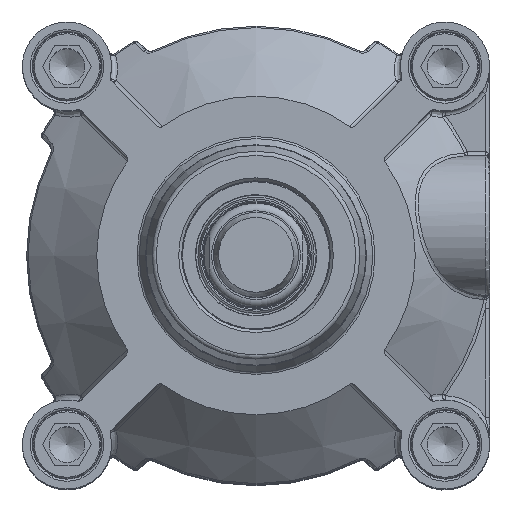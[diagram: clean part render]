
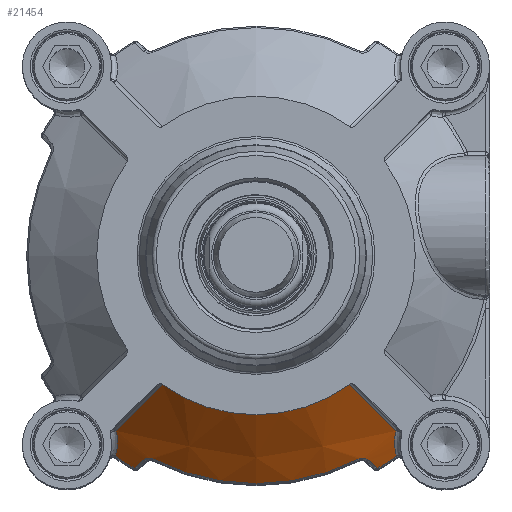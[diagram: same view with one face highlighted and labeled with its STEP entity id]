
A CAD part, top view. The second image highlights one B-rep face of the part: STEP entity #21454.
In plain terms, the highlighted conical face has half-angle 47.936 degrees and reference radius 47.75 mm.
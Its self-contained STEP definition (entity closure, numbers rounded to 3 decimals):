
#582=B_SPLINE_CURVE_WITH_KNOTS('',3,(#40540,#40541,#40542,#40543),
 .UNSPECIFIED.,.F.,.F.,(4,4),(-2.488,-0.418),
 .UNSPECIFIED.);
#586=B_SPLINE_CURVE_WITH_KNOTS('',3,(#40622,#40623,#40624,#40625,#40626),
 .UNSPECIFIED.,.F.,.F.,(4,1,4),(-8.955,-8.635,-8.209),
 .UNSPECIFIED.);
#588=B_SPLINE_CURVE_WITH_KNOTS('',3,(#40674,#40675,#40676,#40677,#40678,
#40679),.UNSPECIFIED.,.F.,.F.,(4,1,1,4),(-0.268,-0.153,
-0.077,0.),.UNSPECIFIED.);
#591=B_SPLINE_CURVE_WITH_KNOTS('',3,(#40739,#40740,#40741,#40742,#40743,
#40744),.UNSPECIFIED.,.F.,.F.,(4,1,1,4),(-0.268,-0.191,
-0.115,0.),.UNSPECIFIED.);
#592=B_SPLINE_CURVE_WITH_KNOTS('',3,(#40776,#40777,#40778,#40779),
 .UNSPECIFIED.,.F.,.F.,(4,4),(-1.565,-1.186),
 .UNSPECIFIED.);
#596=B_SPLINE_CURVE_WITH_KNOTS('',3,(#40856,#40857,#40858,#40859,#40860,
#40861,#40862,#40863),.UNSPECIFIED.,.F.,.F.,(4,2,2,4),(-8.752,
-8.48,-8.178,-8.005),.UNSPECIFIED.);
#599=B_SPLINE_CURVE_WITH_KNOTS('',3,(#40892,#40893,#40894,#40895),
 .UNSPECIFIED.,.F.,.F.,(4,4),(-2.108,-0.039),
 .UNSPECIFIED.);
#600=B_SPLINE_CURVE_WITH_KNOTS('',3,(#40931,#40932,#40933,#40934),
 .UNSPECIFIED.,.F.,.F.,(4,4),(-3.15,-2.771),
 .UNSPECIFIED.);
#5321=FACE_OUTER_BOUND('',#6923,.T.);
#6923=EDGE_LOOP('',(#17154,#17155,#17156,#17157,#17158,#17159,#17160,#17161,
#17162,#17163,#17164,#17165));
#8158=CIRCLE('',#23468,37.5);
#8180=CIRCLE('',#23500,57.67);
#8186=CIRCLE('',#23507,53.67);
#8193=CIRCLE('',#23516,57.67);
#9811=VERTEX_POINT('',#40407);
#9812=VERTEX_POINT('',#40420);
#9833=VERTEX_POINT('',#40512);
#9836=VERTEX_POINT('',#40573);
#9843=VERTEX_POINT('',#40636);
#9844=VERTEX_POINT('',#40672);
#9845=VERTEX_POINT('',#40673);
#9850=VERTEX_POINT('',#40736);
#9851=VERTEX_POINT('',#40738);
#9854=VERTEX_POINT('',#40753);
#9857=VERTEX_POINT('',#40811);
#9861=VERTEX_POINT('',#40829);
#12337=EDGE_CURVE('',#9811,#9812,#8158,.T.);
#12363=EDGE_CURVE('',#9812,#9833,#582,.T.);
#12372=EDGE_CURVE('',#9833,#9836,#586,.T.);
#12377=EDGE_CURVE('',#9836,#9843,#8180,.T.);
#12379=EDGE_CURVE('',#9844,#9845,#588,.T.);
#12385=EDGE_CURVE('',#9850,#9851,#591,.T.);
#12387=EDGE_CURVE('',#9845,#9850,#8186,.T.);
#12392=EDGE_CURVE('',#9851,#9854,#592,.T.);
#12398=EDGE_CURVE('',#9854,#9857,#8193,.T.);
#12403=EDGE_CURVE('',#9857,#9861,#596,.T.);
#12406=EDGE_CURVE('',#9861,#9811,#599,.T.);
#12415=EDGE_CURVE('',#9843,#9844,#600,.T.);
#17154=ORIENTED_EDGE('',*,*,#12406,.F.);
#17155=ORIENTED_EDGE('',*,*,#12403,.F.);
#17156=ORIENTED_EDGE('',*,*,#12398,.F.);
#17157=ORIENTED_EDGE('',*,*,#12392,.F.);
#17158=ORIENTED_EDGE('',*,*,#12385,.F.);
#17159=ORIENTED_EDGE('',*,*,#12387,.F.);
#17160=ORIENTED_EDGE('',*,*,#12379,.F.);
#17161=ORIENTED_EDGE('',*,*,#12415,.F.);
#17162=ORIENTED_EDGE('',*,*,#12377,.F.);
#17163=ORIENTED_EDGE('',*,*,#12372,.F.);
#17164=ORIENTED_EDGE('',*,*,#12363,.F.);
#17165=ORIENTED_EDGE('',*,*,#12337,.F.);
#19099=CONICAL_SURFACE('',#23529,47.75,47.936);
#21454=ADVANCED_FACE('',(#5321),#19099,.T.);
#23468=AXIS2_PLACEMENT_3D('',#40421,#27835,#27836);
#23500=AXIS2_PLACEMENT_3D('',#40640,#27907,#27908);
#23507=AXIS2_PLACEMENT_3D('',#40747,#27921,#27922);
#23516=AXIS2_PLACEMENT_3D('',#40823,#27939,#27940);
#23529=AXIS2_PLACEMENT_3D('',#40945,#27973,#27974);
#27835=DIRECTION('center_axis',(0.,0.,1.));
#27836=DIRECTION('ref_axis',(1.,0.,0.));
#27907=DIRECTION('center_axis',(0.,0.,-1.));
#27908=DIRECTION('ref_axis',(0.54,-0.842,0.));
#27921=DIRECTION('center_axis',(0.,0.,-1.));
#27922=DIRECTION('ref_axis',(0.,-1.,0.));
#27939=DIRECTION('center_axis',(0.,0.,-1.));
#27940=DIRECTION('ref_axis',(-0.54,-0.842,0.));
#27973=DIRECTION('center_axis',(0.,0.,-1.));
#27974=DIRECTION('ref_axis',(0.707,-0.707,0.));
#40407=CARTESIAN_POINT('',(-22.019,-30.355,48.5));
#40420=CARTESIAN_POINT('',(22.019,-30.355,48.5));
#40421=CARTESIAN_POINT('Origin',(0.,0.,48.5));
#40512=CARTESIAN_POINT('',(32.903,-41.282,34.702));
#40540=CARTESIAN_POINT('Ctrl Pts',(22.019,-30.355,48.5));
#40541=CARTESIAN_POINT('Ctrl Pts',(25.649,-34.005,43.91));
#40542=CARTESIAN_POINT('Ctrl Pts',(29.276,-37.645,39.308));
#40543=CARTESIAN_POINT('Ctrl Pts',(32.903,-41.282,34.702));
#40573=CARTESIAN_POINT('',(33.093,-47.23,30.298));
#40622=CARTESIAN_POINT('Ctrl Pts',(32.903,-41.282,34.702));
#40623=CARTESIAN_POINT('Ctrl Pts',(32.691,-42.183,34.185));
#40624=CARTESIAN_POINT('Ctrl Pts',(32.474,-44.275,32.8));
#40625=CARTESIAN_POINT('Ctrl Pts',(32.781,-46.193,31.226));
#40626=CARTESIAN_POINT('Ctrl Pts',(33.093,-47.23,30.298));
#40636=CARTESIAN_POINT('',(28.682,-50.032,30.298));
#40640=CARTESIAN_POINT('Origin',(0.,0.,30.298));
#40672=CARTESIAN_POINT('',(26.49,-48.141,32.754));
#40673=CARTESIAN_POINT('',(24.254,-47.877,33.908));
#40674=CARTESIAN_POINT('Ctrl Pts',(26.49,-48.141,32.754));
#40675=CARTESIAN_POINT('Ctrl Pts',(26.269,-47.95,33.002));
#40676=CARTESIAN_POINT('Ctrl Pts',(25.813,-47.699,33.398));
#40677=CARTESIAN_POINT('Ctrl Pts',(24.994,-47.619,33.81));
#40678=CARTESIAN_POINT('Ctrl Pts',(24.485,-47.76,33.908));
#40679=CARTESIAN_POINT('Ctrl Pts',(24.254,-47.877,33.908));
#40736=CARTESIAN_POINT('',(-24.254,-47.877,33.908));
#40738=CARTESIAN_POINT('',(-26.49,-48.141,32.754));
#40739=CARTESIAN_POINT('Ctrl Pts',(-24.254,-47.877,
33.908));
#40740=CARTESIAN_POINT('Ctrl Pts',(-24.485,-47.76,
33.908));
#40741=CARTESIAN_POINT('Ctrl Pts',(-24.991,-47.62,
33.81));
#40742=CARTESIAN_POINT('Ctrl Pts',(-25.812,-47.698,
33.399));
#40743=CARTESIAN_POINT('Ctrl Pts',(-26.269,-47.95,33.002));
#40744=CARTESIAN_POINT('Ctrl Pts',(-26.49,-48.141,
32.754));
#40747=CARTESIAN_POINT('Origin',(0.,0.,33.908));
#40753=CARTESIAN_POINT('',(-28.682,-50.032,30.298));
#40776=CARTESIAN_POINT('Ctrl Pts',(-26.49,-48.141,
32.754));
#40777=CARTESIAN_POINT('Ctrl Pts',(-27.222,-48.772,31.937));
#40778=CARTESIAN_POINT('Ctrl Pts',(-27.953,-49.402,
31.118));
#40779=CARTESIAN_POINT('Ctrl Pts',(-28.682,-50.032,
30.298));
#40811=CARTESIAN_POINT('',(-33.093,-47.23,30.298));
#40823=CARTESIAN_POINT('Origin',(0.,0.,30.298));
#40829=CARTESIAN_POINT('',(-32.903,-41.282,34.702));
#40856=CARTESIAN_POINT('Ctrl Pts',(-33.093,-47.23,
30.298));
#40857=CARTESIAN_POINT('Ctrl Pts',(-32.893,-46.566,
30.892));
#40858=CARTESIAN_POINT('Ctrl Pts',(-32.75,-45.877,
31.475));
#40859=CARTESIAN_POINT('Ctrl Pts',(-32.585,-44.383,
32.657));
#40860=CARTESIAN_POINT('Ctrl Pts',(-32.575,-43.565,
33.256));
#40861=CARTESIAN_POINT('Ctrl Pts',(-32.709,-42.255,
34.121));
#40862=CARTESIAN_POINT('Ctrl Pts',(-32.788,-41.769,
34.422));
#40863=CARTESIAN_POINT('Ctrl Pts',(-32.903,-41.282,
34.702));
#40892=CARTESIAN_POINT('Ctrl Pts',(-32.903,-41.282,
34.702));
#40893=CARTESIAN_POINT('Ctrl Pts',(-29.276,-37.645,
39.308));
#40894=CARTESIAN_POINT('Ctrl Pts',(-25.649,-34.005,43.91));
#40895=CARTESIAN_POINT('Ctrl Pts',(-22.019,-30.355,
48.5));
#40931=CARTESIAN_POINT('Ctrl Pts',(28.682,-50.032,30.298));
#40932=CARTESIAN_POINT('Ctrl Pts',(27.953,-49.402,31.118));
#40933=CARTESIAN_POINT('Ctrl Pts',(27.222,-48.772,31.937));
#40934=CARTESIAN_POINT('Ctrl Pts',(26.49,-48.141,32.754));
#40945=CARTESIAN_POINT('Origin',(0.,0.,39.25));
